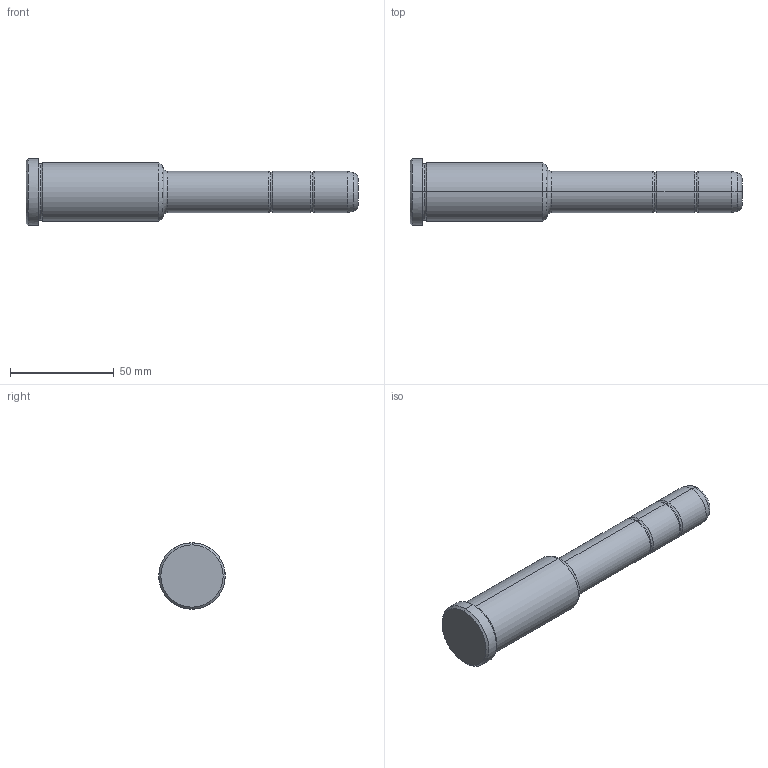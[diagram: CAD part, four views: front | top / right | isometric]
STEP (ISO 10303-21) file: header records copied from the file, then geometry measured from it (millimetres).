
FILE_DESCRIPTION(('CATIA V5 STEP Exchange'),'2;1');
FILE_NAME('C:\Users\Utente\Desktop\IO LAVORO\3D X SITO CF\X SITO\PLASTICA\351\351-20X66X160.stp','2021-08-27T13:14:41+00:00',('none'),('none'),'CATIA Version 5 Release 20 GA (IN-10)','CATIA V5 STEP AP203','none');
FILE_SCHEMA(('CONFIG_CONTROL_DESIGN'));
Length unit declared in the file: millimetre
Products named in the file (1): 351-20X66X160
Bounding box: 160 x 32 x 32 mm (x, y, z)
Volume: 70809.4 mm3; surface area: 13129.9 mm2
Topology: 1 solids, 1 shells, 36 faces, 102 edges, 70 vertices
Faces by surface type: torus 16, cylinder 10, cone 6, plane 4
Entity records: 1292 total; most frequent: CARTESIAN_POINT 321, ORIENTED_EDGE 204, DIRECTION 166, AXIS2_PLACEMENT_3D 115, EDGE_CURVE 102, CIRCLE 78, VERTEX_POINT 70, EDGE_LOOP 38
